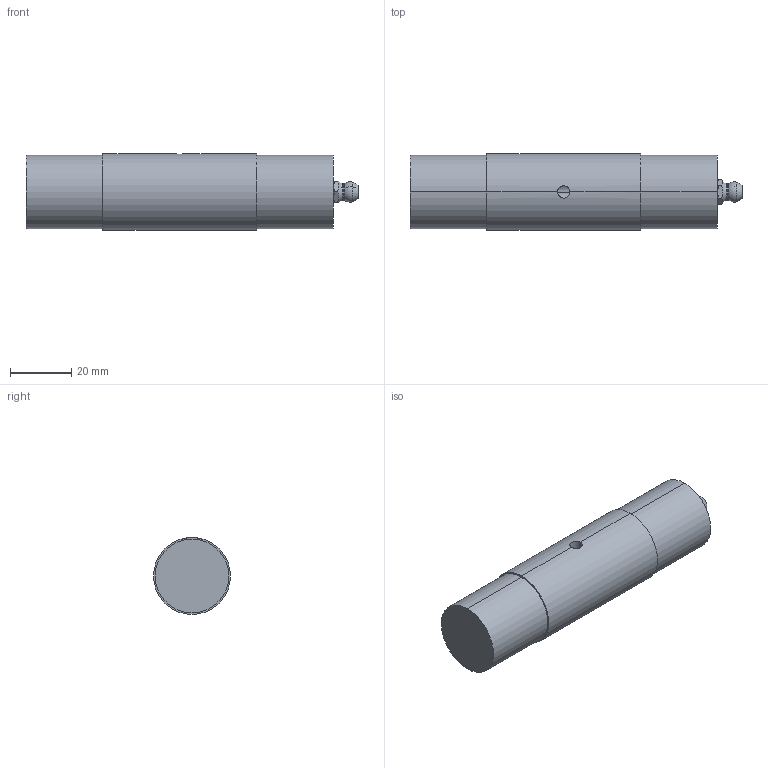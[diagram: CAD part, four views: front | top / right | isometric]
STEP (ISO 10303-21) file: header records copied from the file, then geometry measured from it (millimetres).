
FILE_DESCRIPTION (( 'STEP AP203' ), '1' );
FILE_NAME ('62450.STEP', '2013-04-05T10:19:52', ( 'John' ), ( 'Hewlett-Packard Company' ), 'SwSTEP 2.0', 'SolidWorks 2007', '' );
FILE_SCHEMA (( 'CONFIG_CONTROL_DESIGN' ));
Length unit declared in the file: millimetre
Products named in the file (3): 62450; Smörjnippel_nipple-1036r-internordic
Assembly tree (2 placements, depth 2):
  62450
    Smörjnippel_nipple-1036r-internordic
    62450
Bounding box: 108 x 25 x 25 mm (x, y, z)
Volume: 45913.6 mm3; surface area: 10096.9 mm2
Topology: 2 solids, 2 shells, 46 faces, 111 edges, 65 vertices
Faces by surface type: cylinder 12, plane 12, cone 10, torus 8, sphere 4
Entity records: 1731 total; most frequent: CARTESIAN_POINT 419, DIRECTION 232, ORIENTED_EDGE 200, AXIS2_PLACEMENT_3D 101, EDGE_CURVE 100, VERTEX_POINT 60, EDGE_LOOP 50, CIRCLE 50
